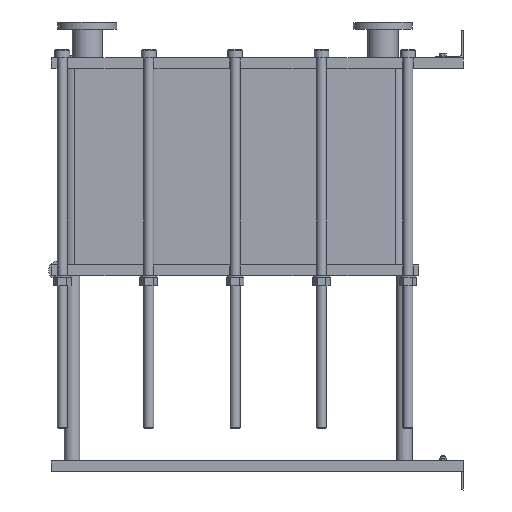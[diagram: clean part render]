
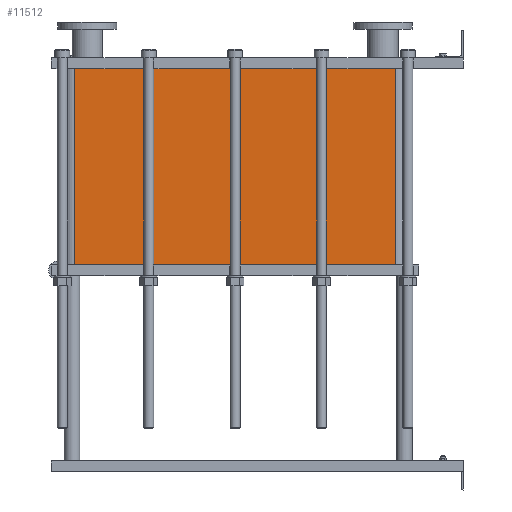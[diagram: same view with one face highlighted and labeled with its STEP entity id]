
A CAD part, left-side view. The second image highlights one B-rep face of the part: STEP entity #11512.
In plain terms, the highlighted planar face has unit normal (-1, 0, 0).
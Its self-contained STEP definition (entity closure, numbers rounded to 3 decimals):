
#1129=LINE('',#23232,#2102);
#1130=LINE('',#23236,#2103);
#1131=LINE('',#23238,#2104);
#1132=LINE('',#23239,#2105);
#2102=VECTOR('',#15887,10.);
#2103=VECTOR('',#15892,10.);
#2104=VECTOR('',#15893,10.);
#2105=VECTOR('',#15894,10.);
#3267=FACE_OUTER_BOUND('',#4093,.T.);
#4093=EDGE_LOOP('',(#10103,#10104,#10105,#10106));
#5642=VERTEX_POINT('',#23229);
#5643=VERTEX_POINT('',#23231);
#5644=VERTEX_POINT('',#23235);
#5645=VERTEX_POINT('',#23237);
#7159=EDGE_CURVE('',#5643,#5642,#1129,.T.);
#7161=EDGE_CURVE('',#5642,#5644,#1130,.T.);
#7162=EDGE_CURVE('',#5645,#5644,#1131,.T.);
#7163=EDGE_CURVE('',#5645,#5643,#1132,.T.);
#10103=ORIENTED_EDGE('',*,*,#7161,.T.);
#10104=ORIENTED_EDGE('',*,*,#7162,.F.);
#10105=ORIENTED_EDGE('',*,*,#7163,.T.);
#10106=ORIENTED_EDGE('',*,*,#7159,.T.);
#10857=PLANE('',#12751);
#11512=ADVANCED_FACE('',(#3267),#10857,.T.);
#12751=AXIS2_PLACEMENT_3D('',#23234,#15890,#15891);
#15887=DIRECTION('',(0.,0.,-1.));
#15890=DIRECTION('center_axis',(-1.,0.,0.));
#15891=DIRECTION('ref_axis',(0.,1.,0.));
#15892=DIRECTION('',(0.,-1.,0.));
#15893=DIRECTION('',(0.,0.,-1.));
#15894=DIRECTION('',(0.,1.,0.));
#23229=CARTESIAN_POINT('',(-200.,1414.,-714.15));
#23231=CARTESIAN_POINT('',(-200.,1414.,0.));
#23232=CARTESIAN_POINT('',(-200.,1414.,0.));
#23234=CARTESIAN_POINT('Origin',(-200.,248.,0.));
#23235=CARTESIAN_POINT('',(-200.,248.,-714.15));
#23236=CARTESIAN_POINT('',(-200.,539.5,-714.15));
#23237=CARTESIAN_POINT('',(-200.,248.,0.));
#23238=CARTESIAN_POINT('',(-200.,248.,0.));
#23239=CARTESIAN_POINT('',(-200.,248.,0.));
